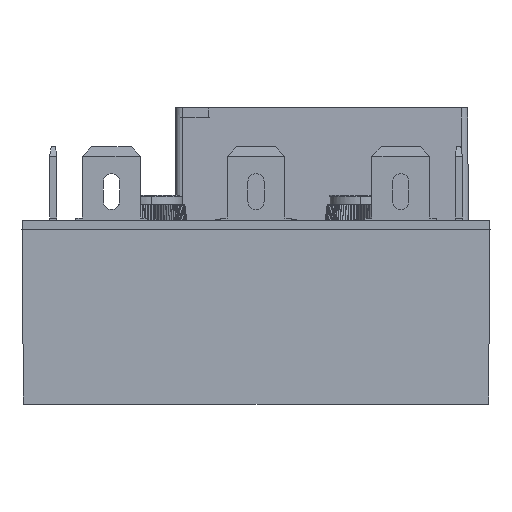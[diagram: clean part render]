
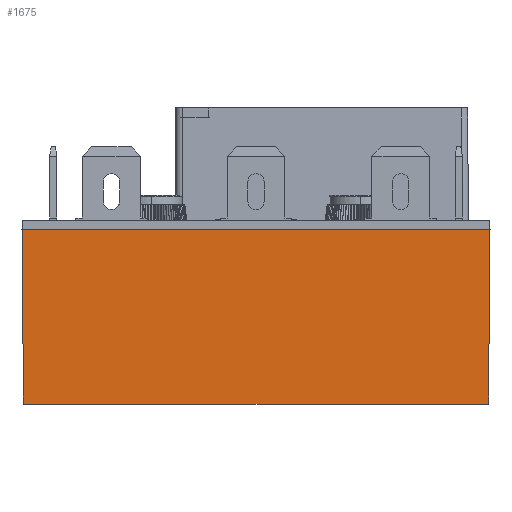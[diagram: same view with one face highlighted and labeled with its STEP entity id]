
A CAD part, front view. The second image highlights one B-rep face of the part: STEP entity #1675.
In plain terms, the highlighted planar face has unit normal (0, -1, -0.009).
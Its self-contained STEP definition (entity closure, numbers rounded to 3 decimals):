
#279 = PLANE('',#280);
#280 = AXIS2_PLACEMENT_3D('',#281,#282,#283);
#281 = CARTESIAN_POINT('',(0.,0.,-19.152));
#282 = DIRECTION('',(0.,-0.,1.));
#283 = DIRECTION('',(1.,0.,0.));
#1420 = VERTEX_POINT('',#1421);
#1421 = CARTESIAN_POINT('',(-25.655,-38.481,0.));
#1428 = PLANE('',#1429);
#1429 = AXIS2_PLACEMENT_3D('',#1430,#1431,#1432);
#1430 = CARTESIAN_POINT('',(-25.655,-37.478,-0.009
    ));
#1431 = DIRECTION('',(-1.,0.,-0.009));
#1432 = DIRECTION('',(-0.009,0.,1.));
#1440 = PLANE('',#1441);
#1441 = AXIS2_PLACEMENT_3D('',#1442,#1443,#1444);
#1442 = CARTESIAN_POINT('',(0.,0.,0.));
#1443 = DIRECTION('',(0.,-0.,1.));
#1444 = DIRECTION('',(1.,0.,0.));
#1481 = VERTEX_POINT('',#1482);
#1482 = CARTESIAN_POINT('',(-25.488,-38.314,-19.152));
#1503 = EDGE_CURVE('',#1481,#1420,#1504,.T.);
#1504 = SURFACE_CURVE('',#1505,(#1509,#1516),.PCURVE_S1.);
#1505 = LINE('',#1506,#1507);
#1506 = CARTESIAN_POINT('',(-25.655,-38.481,
    -0.018));
#1507 = VECTOR('',#1508,1.);
#1508 = DIRECTION('',(-0.009,-0.009,
    1.));
#1509 = PCURVE('',#1428,#1510);
#1510 = DEFINITIONAL_REPRESENTATION('',(#1511),#1515);
#1511 = LINE('',#1512,#1513);
#1512 = CARTESIAN_POINT('',(-0.009,-1.003));
#1513 = VECTOR('',#1514,1.);
#1514 = DIRECTION('',(1.,-0.009));
#1515 = ( GEOMETRIC_REPRESENTATION_CONTEXT(2) 
PARAMETRIC_REPRESENTATION_CONTEXT() REPRESENTATION_CONTEXT('2D SPACE',''
  ) );
#1516 = PCURVE('',#1517,#1522);
#1517 = PLANE('',#1518);
#1518 = AXIS2_PLACEMENT_3D('',#1519,#1520,#1521);
#1519 = CARTESIAN_POINT('',(24.652,-38.481,-0.009
    ));
#1520 = DIRECTION('',(0.,-1.,-0.009));
#1521 = DIRECTION('',(0.,0.009,-1.));
#1522 = DEFINITIONAL_REPRESENTATION('',(#1523),#1527);
#1523 = LINE('',#1524,#1525);
#1524 = CARTESIAN_POINT('',(0.009,-50.307));
#1525 = VECTOR('',#1526,1.);
#1526 = DIRECTION('',(-1.,-0.009));
#1527 = ( GEOMETRIC_REPRESENTATION_CONTEXT(2) 
PARAMETRIC_REPRESENTATION_CONTEXT() REPRESENTATION_CONTEXT('2D SPACE',''
  ) );
#1571 = PLANE('',#1572);
#1572 = AXIS2_PLACEMENT_3D('',#1573,#1574,#1575);
#1573 = CARTESIAN_POINT('',(25.655,-37.478,-0.009)
  );
#1574 = DIRECTION('',(1.,0.,-0.009));
#1575 = DIRECTION('',(-0.009,0.,-1.));
#1609 = VERTEX_POINT('',#1610);
#1610 = CARTESIAN_POINT('',(25.655,-38.481,0.));
#1631 = EDGE_CURVE('',#1632,#1609,#1634,.T.);
#1632 = VERTEX_POINT('',#1633);
#1633 = CARTESIAN_POINT('',(25.488,-38.314,-19.152));
#1634 = SURFACE_CURVE('',#1635,(#1639,#1646),.PCURVE_S1.);
#1635 = LINE('',#1636,#1637);
#1636 = CARTESIAN_POINT('',(25.655,-38.481,
    -0.018));
#1637 = VECTOR('',#1638,1.);
#1638 = DIRECTION('',(0.009,-0.009,
    1.));
#1639 = PCURVE('',#1571,#1640);
#1640 = DEFINITIONAL_REPRESENTATION('',(#1641),#1645);
#1641 = LINE('',#1642,#1643);
#1642 = CARTESIAN_POINT('',(0.009,-1.003));
#1643 = VECTOR('',#1644,1.);
#1644 = DIRECTION('',(-1.,-0.009));
#1645 = ( GEOMETRIC_REPRESENTATION_CONTEXT(2) 
PARAMETRIC_REPRESENTATION_CONTEXT() REPRESENTATION_CONTEXT('2D SPACE',''
  ) );
#1646 = PCURVE('',#1517,#1647);
#1647 = DEFINITIONAL_REPRESENTATION('',(#1648),#1652);
#1648 = LINE('',#1649,#1650);
#1649 = CARTESIAN_POINT('',(0.009,1.003));
#1650 = VECTOR('',#1651,1.);
#1651 = DIRECTION('',(-1.,0.009));
#1652 = ( GEOMETRIC_REPRESENTATION_CONTEXT(2) 
PARAMETRIC_REPRESENTATION_CONTEXT() REPRESENTATION_CONTEXT('2D SPACE',''
  ) );
#1675 = ADVANCED_FACE('',(#1676),#1517,.T.);
#1676 = FACE_BOUND('',#1677,.T.);
#1677 = EDGE_LOOP('',(#1678,#1699,#1700,#1721));
#1678 = ORIENTED_EDGE('',*,*,#1679,.F.);
#1679 = EDGE_CURVE('',#1420,#1609,#1680,.T.);
#1680 = SURFACE_CURVE('',#1681,(#1685,#1692),.PCURVE_S1.);
#1681 = LINE('',#1682,#1683);
#1682 = CARTESIAN_POINT('',(0.,-38.481,0.));
#1683 = VECTOR('',#1684,1.);
#1684 = DIRECTION('',(1.,0.,0.));
#1685 = PCURVE('',#1517,#1686);
#1686 = DEFINITIONAL_REPRESENTATION('',(#1687),#1691);
#1687 = LINE('',#1688,#1689);
#1688 = CARTESIAN_POINT('',(-0.009,-24.652));
#1689 = VECTOR('',#1690,1.);
#1690 = DIRECTION('',(0.,1.));
#1691 = ( GEOMETRIC_REPRESENTATION_CONTEXT(2) 
PARAMETRIC_REPRESENTATION_CONTEXT() REPRESENTATION_CONTEXT('2D SPACE',''
  ) );
#1692 = PCURVE('',#1440,#1693);
#1693 = DEFINITIONAL_REPRESENTATION('',(#1694),#1698);
#1694 = LINE('',#1695,#1696);
#1695 = CARTESIAN_POINT('',(0.,-38.481));
#1696 = VECTOR('',#1697,1.);
#1697 = DIRECTION('',(1.,0.));
#1698 = ( GEOMETRIC_REPRESENTATION_CONTEXT(2) 
PARAMETRIC_REPRESENTATION_CONTEXT() REPRESENTATION_CONTEXT('2D SPACE',''
  ) );
#1699 = ORIENTED_EDGE('',*,*,#1503,.F.);
#1700 = ORIENTED_EDGE('',*,*,#1701,.T.);
#1701 = EDGE_CURVE('',#1481,#1632,#1702,.T.);
#1702 = SURFACE_CURVE('',#1703,(#1707,#1714),.PCURVE_S1.);
#1703 = LINE('',#1704,#1705);
#1704 = CARTESIAN_POINT('',(0.,-38.314,-19.152));
#1705 = VECTOR('',#1706,1.);
#1706 = DIRECTION('',(1.,0.,0.));
#1707 = PCURVE('',#1517,#1708);
#1708 = DEFINITIONAL_REPRESENTATION('',(#1709),#1713);
#1709 = LINE('',#1710,#1711);
#1710 = CARTESIAN_POINT('',(19.144,-24.652));
#1711 = VECTOR('',#1712,1.);
#1712 = DIRECTION('',(0.,1.));
#1713 = ( GEOMETRIC_REPRESENTATION_CONTEXT(2) 
PARAMETRIC_REPRESENTATION_CONTEXT() REPRESENTATION_CONTEXT('2D SPACE',''
  ) );
#1714 = PCURVE('',#279,#1715);
#1715 = DEFINITIONAL_REPRESENTATION('',(#1716),#1720);
#1716 = LINE('',#1717,#1718);
#1717 = CARTESIAN_POINT('',(0.,-38.314));
#1718 = VECTOR('',#1719,1.);
#1719 = DIRECTION('',(1.,0.));
#1720 = ( GEOMETRIC_REPRESENTATION_CONTEXT(2) 
PARAMETRIC_REPRESENTATION_CONTEXT() REPRESENTATION_CONTEXT('2D SPACE',''
  ) );
#1721 = ORIENTED_EDGE('',*,*,#1631,.T.);
